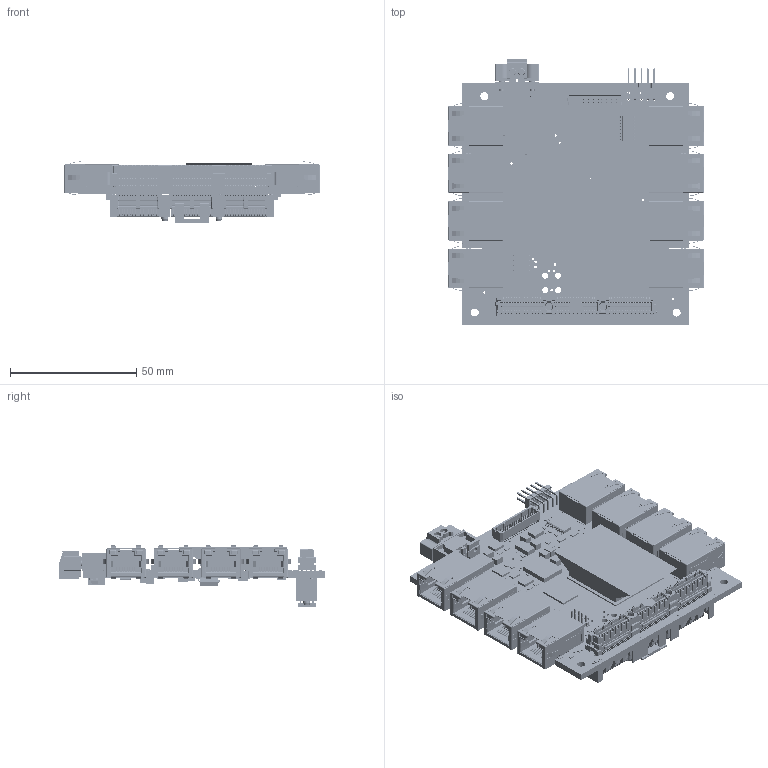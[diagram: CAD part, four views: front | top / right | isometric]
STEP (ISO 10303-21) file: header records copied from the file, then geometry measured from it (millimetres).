
FILE_DESCRIPTION(('Open CASCADE Model'),'2;1');
FILE_NAME('Open CASCADE Shape Model','2013-11-18T08:58:47',('Author'),( 'Open CASCADE'),'Open CASCADE STEP processor 6.2','Open CASCADE 6.2' ,'Unknown');
FILE_SCHEMA(('AUTOMOTIVE_DESIGN { 1 0 10303 214 1 1 1 1 }'));
Length unit declared in the file: millimetre
Products named in the file (494): PCB; Board; L11; 1027980384; Extruded; C185; 1027979744; 1027979872; D2; 1357216128; 1027981664; L4; 1027967072; L3; L2; L1; C138; 1027980128; 1027980000; C137; C136; C135; C134; C133; C132; C131; C130; C129; C128; 1027968352; 1027967712; C127; C126; C125; C124; 1027967584; C123; C122; C121; C120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
Assembly tree (1715 placements, depth 4):
  PCB
    Board
    L11
      1027980384
        Extruded
    C185
      1027979744
        Extruded
      1027979872  x2
        Extruded
    D2
      1357216128
        Extruded
      1027981664  x2
        Extruded
    L4
      1027967072
        Extruded
    L3
      1027967072
        Extruded
    L2
      1027967072
        Extruded
    L1
      1027967072
        Extruded
    C138
      1027980128
        Extruded
      1027980000  x2
        Extruded
    C137
      1027979872  x2
        Extruded
      1027979744
        Extruded
    C136
      1027979872  x2
        Extruded
      1027979744
        Extruded
    C135
      1027979872  x2
        Extruded
      1027979744
        Extruded
    C134
      1027979872  x2
        Extruded
      1027979744
        Extruded
    C133
      1027979872  x2
        Extruded
      1027979744
        Extruded
    C132
      1027979872  x2
        Extruded
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Bounding box: 101.25 x 105.67 x 24.2 mm (x, y, z)
Volume: 51960.1 mm3; surface area: 85552.2 mm2
Topology: 1328 solids, 1328 shells, 45587 faces, 125540 edges, 82155 vertices
Faces by surface type: plane 33245, cylinder 11682, bspline 320, sphere 148, torus 134, cone 58
Full cylindrical faces by diameter (mm): 0.7 x2, 0.889 x8, 0.94 x10, 0.995 x6, 1 x1, 1.168 x6, 1.2 x18, 1.397 x16, 2.375 x4, 3.175 x4, 20 x1
Entity records: 1081094 total; most frequent: CARTESIAN_POINT 223800, DIRECTION 153278, LINE 114514, VECTOR 114514, ORIENTED_EDGE 83984, PCURVE 83984, DEFINITIONAL_REPRESENTATION 83984, EDGE_CURVE 41992
